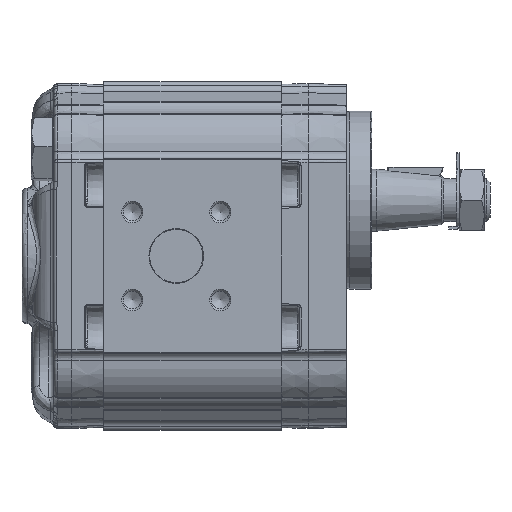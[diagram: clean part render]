
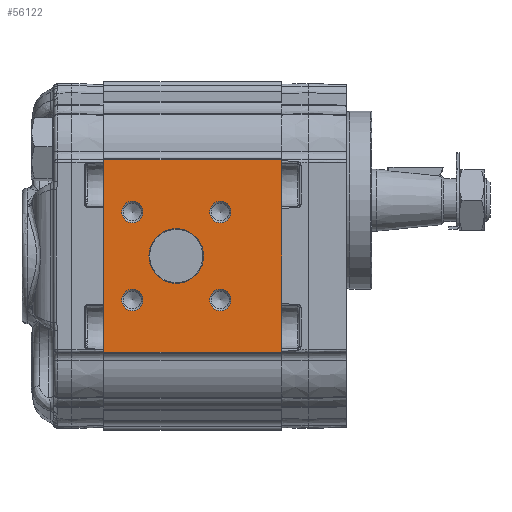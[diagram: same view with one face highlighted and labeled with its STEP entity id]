
A CAD part, left-side view. The second image highlights one B-rep face of the part: STEP entity #56122.
In plain terms, the highlighted planar face has unit normal (-1, 0, 0).
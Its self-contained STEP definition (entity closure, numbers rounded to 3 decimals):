
#3703=PLANE('',#59644);
#5021=CIRCLE('',#59645,7.7);
#5022=CIRCLE('',#59646,3.);
#5023=CIRCLE('',#59647,3.);
#5024=CIRCLE('',#59648,3.);
#5025=CIRCLE('',#59649,3.);
#11173=ORIENTED_EDGE('',*,*,#20204,.T.);
#11174=ORIENTED_EDGE('',*,*,#20205,.T.);
#11175=ORIENTED_EDGE('',*,*,#20206,.T.);
#11176=ORIENTED_EDGE('',*,*,#20207,.T.);
#11177=ORIENTED_EDGE('',*,*,#20208,.T.);
#11178=ORIENTED_EDGE('',*,*,#20209,.F.);
#11179=ORIENTED_EDGE('',*,*,#20210,.F.);
#11180=ORIENTED_EDGE('',*,*,#20211,.T.);
#11181=ORIENTED_EDGE('',*,*,#20212,.T.);
#20204=EDGE_CURVE('',#25046,#25046,#5021,.F.);
#20205=EDGE_CURVE('',#25047,#25047,#5022,.F.);
#20206=EDGE_CURVE('',#25048,#25048,#5023,.F.);
#20207=EDGE_CURVE('',#25049,#25049,#5024,.F.);
#20208=EDGE_CURVE('',#25050,#25050,#5025,.F.);
#20209=EDGE_CURVE('',#25051,#25052,#27939,.T.);
#20210=EDGE_CURVE('',#25053,#25051,#27940,.T.);
#20211=EDGE_CURVE('',#25053,#25054,#27941,.T.);
#20212=EDGE_CURVE('',#25054,#25052,#27942,.T.);
#25046=VERTEX_POINT('',#86806);
#25047=VERTEX_POINT('',#86808);
#25048=VERTEX_POINT('',#86810);
#25049=VERTEX_POINT('',#86812);
#25050=VERTEX_POINT('',#86814);
#25051=VERTEX_POINT('',#86816);
#25052=VERTEX_POINT('',#86817);
#25053=VERTEX_POINT('',#86819);
#25054=VERTEX_POINT('',#86821);
#27939=LINE('',#86815,#29974);
#27940=LINE('',#86818,#29975);
#27941=LINE('',#86820,#29976);
#27942=LINE('',#86822,#29977);
#29974=VECTOR('',#66583,1000.);
#29975=VECTOR('',#66584,1000.);
#29976=VECTOR('',#66585,1000.);
#29977=VECTOR('',#66586,1000.);
#32371=EDGE_LOOP('',(#11173));
#32372=EDGE_LOOP('',(#11174));
#32373=EDGE_LOOP('',(#11175));
#32374=EDGE_LOOP('',(#11176));
#32375=EDGE_LOOP('',(#11177));
#32376=EDGE_LOOP('',(#11178,#11179,#11180,#11181));
#35152=FACE_BOUND('',#32371,.T.);
#35153=FACE_BOUND('',#32372,.T.);
#35154=FACE_BOUND('',#32373,.T.);
#35155=FACE_BOUND('',#32374,.T.);
#35156=FACE_BOUND('',#32375,.T.);
#35157=FACE_BOUND('',#32376,.T.);
#56122=ADVANCED_FACE('',(#35152,#35153,#35154,#35155,#35156,#35157),#3703,
 .T.);
#59644=AXIS2_PLACEMENT_3D('',#86804,#66571,#66572);
#59645=AXIS2_PLACEMENT_3D('',#86805,#66573,#66574);
#59646=AXIS2_PLACEMENT_3D('',#86807,#66575,#66576);
#59647=AXIS2_PLACEMENT_3D('',#86809,#66577,#66578);
#59648=AXIS2_PLACEMENT_3D('',#86811,#66579,#66580);
#59649=AXIS2_PLACEMENT_3D('',#86813,#66581,#66582);
#66571=DIRECTION('',(-1.,0.,0.));
#66572=DIRECTION('',(0.,0.,1.));
#66573=DIRECTION('',(-1.,0.,0.));
#66574=DIRECTION('',(0.,0.,1.));
#66575=DIRECTION('',(-1.,0.,0.));
#66576=DIRECTION('',(0.,0.,1.));
#66577=DIRECTION('',(-1.,0.,0.));
#66578=DIRECTION('',(0.,0.,1.));
#66579=DIRECTION('',(-1.,0.,0.));
#66580=DIRECTION('',(0.,0.,1.));
#66581=DIRECTION('',(-1.,0.,0.));
#66582=DIRECTION('',(0.,0.,1.));
#66583=DIRECTION('',(0.,0.,-1.));
#66584=DIRECTION('',(0.,-1.,0.));
#66585=DIRECTION('',(0.,0.,-1.));
#66586=DIRECTION('',(0.,-1.,0.));
#86804=CARTESIAN_POINT('',(-43.,50.,27.048));
#86805=CARTESIAN_POINT('',(-43.,29.6,0.));
#86806=CARTESIAN_POINT('',(-43.,29.6,7.7));
#86807=CARTESIAN_POINT('',(-43.,41.974,-12.374));
#86808=CARTESIAN_POINT('',(-43.,41.974,-9.374));
#86809=CARTESIAN_POINT('',(-43.,41.974,12.374));
#86810=CARTESIAN_POINT('',(-43.,41.974,15.374));
#86811=CARTESIAN_POINT('',(-43.,17.226,12.374));
#86812=CARTESIAN_POINT('',(-43.,17.226,15.374));
#86813=CARTESIAN_POINT('',(-43.,17.226,-12.374));
#86814=CARTESIAN_POINT('',(-43.,17.226,-9.374));
#86815=CARTESIAN_POINT('',(-43.,0.,27.048));
#86816=CARTESIAN_POINT('',(-43.,0.,27.048));
#86817=CARTESIAN_POINT('',(-43.,0.,-27.048));
#86818=CARTESIAN_POINT('',(-43.,50.,27.048));
#86819=CARTESIAN_POINT('',(-43.,50.,27.048));
#86820=CARTESIAN_POINT('',(-43.,50.,27.048));
#86821=CARTESIAN_POINT('',(-43.,50.,-27.048));
#86822=CARTESIAN_POINT('',(-43.,50.,-27.048));
